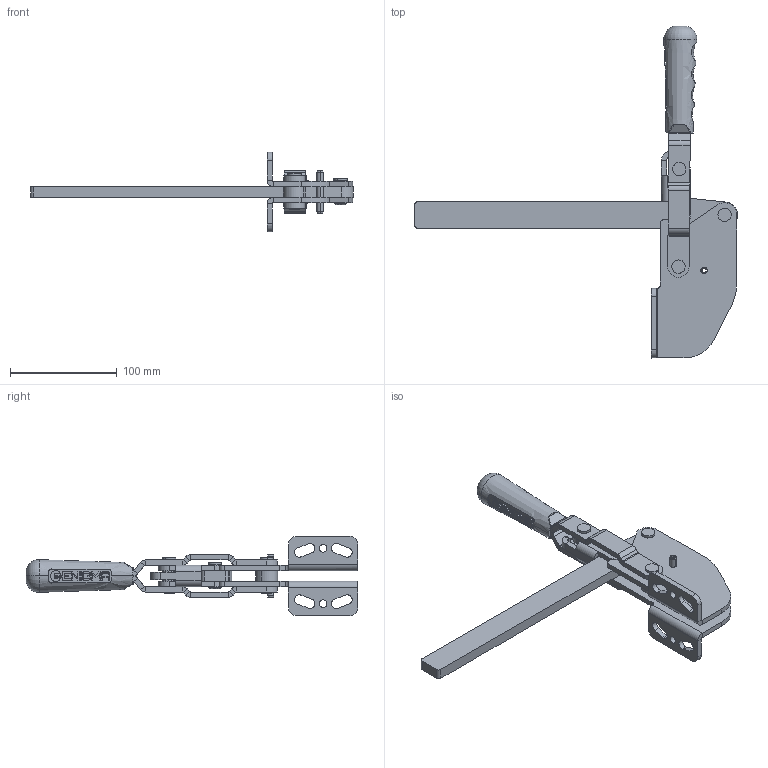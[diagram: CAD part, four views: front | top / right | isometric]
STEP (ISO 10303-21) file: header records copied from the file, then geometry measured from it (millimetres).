
FILE_DESCRIPTION (( 'STEP AP214' ), '1' );
FILE_NAME ('1106-A-L.STEP', '2022-09-01T11:25:38', ( '' ), ( '' ), 'SwSTEP 2.0', 'SolidWorks 2022', '' );
FILE_SCHEMA (( 'AUTOMOTIVE_DESIGN' ));
Length unit declared in the file: millimetre
Products named in the file (13): 12x8x18_BURÇ_Varsayılan; 6x40_YARIKLI_PİM_Varsayılan; 8x25_PERÇİN_Varsayılan; C100_Yeni_Tutamak_10x20_Varsayılan; 12x8x9_BURÇ_Varsayılan; 1106_HAREKET_KOLU_REV1_Varsayılan; Pim_8x33_Varsayılan; L1_Baskı_Kolu; 1106 A GÖVDE_Varsayılan; 1106-A-L; Aynalama1106 A GÖVDE_Varsayılan; 1106_DESTEK_YÜZÜĞÜ_Varsayılan; 1106_MAFSAL,_Varsayılan
Assembly tree (17 placements, depth 2):
  1106-A-L
    1106_MAFSAL,_Varsayılan
    1106_HAREKET_KOLU_REV1_Varsayılan  x2
    Pim_8x33_Varsayılan  x2
    12x8x18_BURÇ_Varsayılan  x2
    1106_DESTEK_YÜZÜĞÜ_Varsayılan
    6x40_YARIKLI_PİM_Varsayılan
    12x8x9_BURÇ_Varsayılan  x2
    8x25_PERÇİN_Varsayılan  x2
    C100_Yeni_Tutamak_10x20_Varsayılan
    1106 A GÖVDE_Varsayılan
    Aynalama1106 A GÖVDE_Varsayılan
    L1_Baskı_Kolu
Bounding box: 301.96 x 310.55 x 74.29 mm (x, y, z)
Volume: 246101.1 mm3; surface area: 128533.1 mm2
Topology: 14 solids, 17 shells, 1032 faces, 2556 edges, 1615 vertices
Faces by surface type: plane 698, cylinder 224, cone 44, torus 34, bspline 32
Entity records: 24403 total; most frequent: CARTESIAN_POINT 6483, ORIENTED_EDGE 3600, DIRECTION 3540, EDGE_CURVE 1800, LINE 1210, VECTOR 1210, AXIS2_PLACEMENT_3D 1165, VERTEX_POINT 1150
